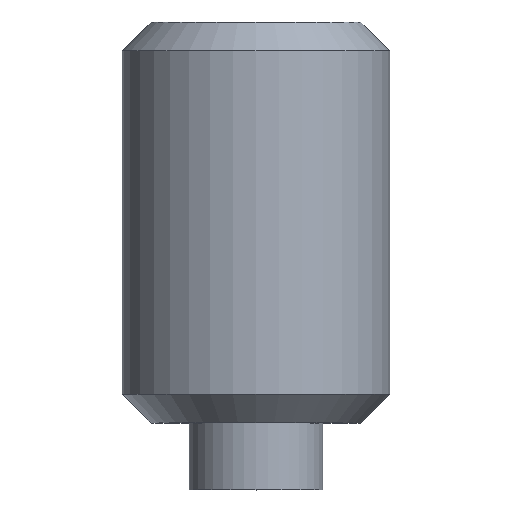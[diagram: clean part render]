
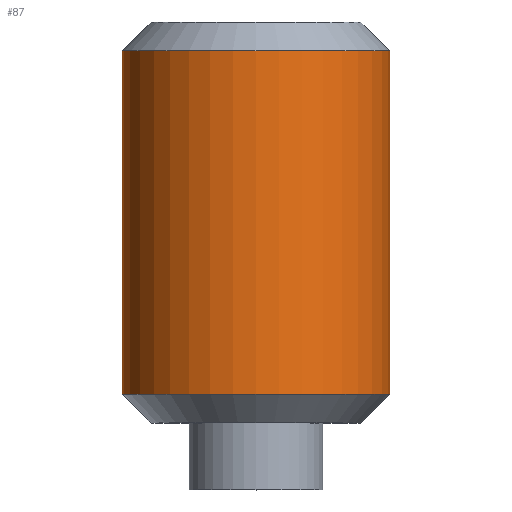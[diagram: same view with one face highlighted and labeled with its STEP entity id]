
A CAD part, top view. The second image highlights one B-rep face of the part: STEP entity #87.
In plain terms, the highlighted cylindrical face has radius 2 mm (diameter 4 mm), a full revolution.
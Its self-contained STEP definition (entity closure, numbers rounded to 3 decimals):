
#87 = ADVANCED_FACE( '', ( #118, #119 ), #120, .T. );
#118 = FACE_OUTER_BOUND( '', #152, .T. );
#119 = FACE_OUTER_BOUND( '', #153, .T. );
#120 = CYLINDRICAL_SURFACE( '', #154, 2. );
#152 = EDGE_LOOP( '', ( #238 ) );
#153 = EDGE_LOOP( '', ( #239 ) );
#154 = AXIS2_PLACEMENT_3D( '', #240, #241, #242 );
#238 = ORIENTED_EDGE( '', *, *, #270, .F. );
#239 = ORIENTED_EDGE( '', *, *, #271, .T. );
#240 = CARTESIAN_POINT( '', ( 0., 0., 0. ) );
#241 = DIRECTION( '', ( 0., 1., 0. ) );
#242 = DIRECTION( '', ( 0., 0., -1. ) );
#270 = EDGE_CURVE( '', #310, #310, #311, .T. );
#271 = EDGE_CURVE( '', #312, #312, #313, .T. );
#310 = VERTEX_POINT( '', #370 );
#311 = CIRCLE( '', #371, 2. );
#312 = VERTEX_POINT( '', #372 );
#313 = CIRCLE( '', #373, 2. );
#370 = CARTESIAN_POINT( '', ( 0., 1.43, -2. ) );
#371 = AXIS2_PLACEMENT_3D( '', #404, #405, #406 );
#372 = CARTESIAN_POINT( '', ( 0., 6.571, -2. ) );
#373 = AXIS2_PLACEMENT_3D( '', #407, #408, #409 );
#404 = CARTESIAN_POINT( '', ( 0., 1.43, 0. ) );
#405 = DIRECTION( '', ( 0., -1., 0. ) );
#406 = DIRECTION( '', ( 0., 0., -1. ) );
#407 = CARTESIAN_POINT( '', ( 0., 6.571, 0. ) );
#408 = DIRECTION( '', ( 0., -1., 0. ) );
#409 = DIRECTION( '', ( 0., 0., -1. ) );
